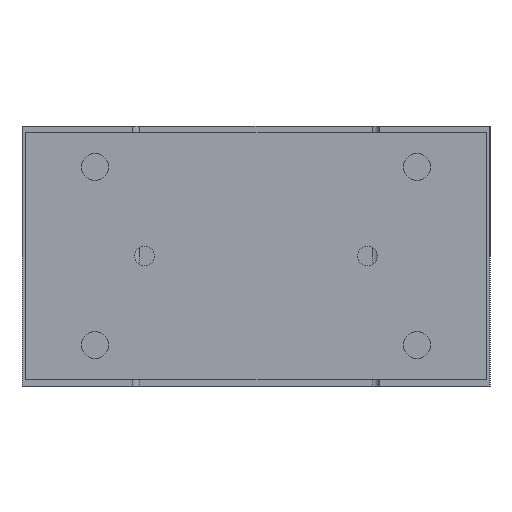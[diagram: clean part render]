
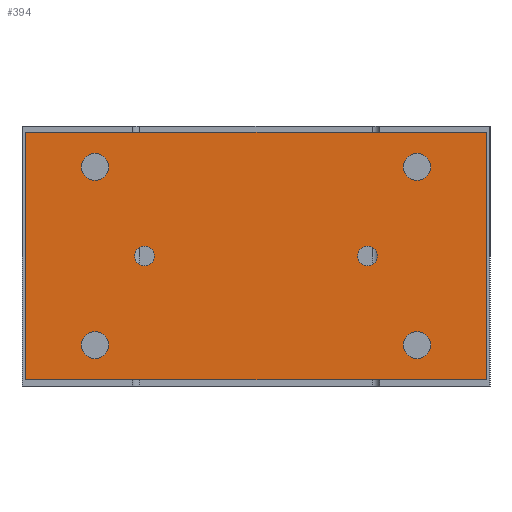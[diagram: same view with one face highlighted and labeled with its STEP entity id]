
A CAD part, left-side view. The second image highlights one B-rep face of the part: STEP entity #394.
In plain terms, the highlighted planar face has unit normal (-1, 0, 0).
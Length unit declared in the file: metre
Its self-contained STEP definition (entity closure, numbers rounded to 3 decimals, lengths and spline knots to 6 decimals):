
#394 = ADVANCED_FACE( '', ( #979, #980, #981, #982, #983, #984, #985 ), #986, .T. );
#979 = FACE_BOUND( '', #1783, .T. );
#980 = FACE_BOUND( '', #1784, .T. );
#981 = FACE_BOUND( '', #1785, .T. );
#982 = FACE_BOUND( '', #1786, .T. );
#983 = FACE_BOUND( '', #1787, .T. );
#984 = FACE_BOUND( '', #1788, .T. );
#985 = FACE_OUTER_BOUND( '', #1789, .T. );
#986 = PLANE( '', #1790 );
#1783 = EDGE_LOOP( '', ( #2844 ) );
#1784 = EDGE_LOOP( '', ( #2845 ) );
#1785 = EDGE_LOOP( '', ( #2846 ) );
#1786 = EDGE_LOOP( '', ( #2847 ) );
#1787 = EDGE_LOOP( '', ( #2848 ) );
#1788 = EDGE_LOOP( '', ( #2849 ) );
#1789 = EDGE_LOOP( '', ( #2850, #2851, #2852, #2853 ) );
#1790 = AXIS2_PLACEMENT_3D( '', #2854, #2855, #2856 );
#2844 = ORIENTED_EDGE( '', *, *, #3979, .F. );
#2845 = ORIENTED_EDGE( '', *, *, #4094, .F. );
#2846 = ORIENTED_EDGE( '', *, *, #3865, .F. );
#2847 = ORIENTED_EDGE( '', *, *, #4095, .F. );
#2848 = ORIENTED_EDGE( '', *, *, #4096, .F. );
#2849 = ORIENTED_EDGE( '', *, *, #4097, .T. );
#2850 = ORIENTED_EDGE( '', *, *, #4040, .T. );
#2851 = ORIENTED_EDGE( '', *, *, #4098, .T. );
#2852 = ORIENTED_EDGE( '', *, *, #3886, .T. );
#2853 = ORIENTED_EDGE( '', *, *, #3994, .T. );
#2854 = CARTESIAN_POINT( '', ( -0.135, 0.093, -0.1025 ) );
#2855 = DIRECTION( '', ( -1., 0., 0. ) );
#2856 = DIRECTION( '', ( 0., 0., -1. ) );
#3865 = EDGE_CURVE( '', #4464, #4464, #4465, .T. );
#3886 = EDGE_CURVE( '', #4502, #4500, #4503, .T. );
#3979 = EDGE_CURVE( '', #4661, #4661, #4662, .T. );
#3994 = EDGE_CURVE( '', #4500, #4684, #4686, .T. );
#4040 = EDGE_CURVE( '', #4684, #4755, #4757, .T. );
#4094 = EDGE_CURVE( '', #4840, #4840, #4841, .T. );
#4095 = EDGE_CURVE( '', #4842, #4842, #4843, .T. );
#4096 = EDGE_CURVE( '', #4844, #4844, #4845, .T. );
#4097 = EDGE_CURVE( '', #4846, #4846, #4847, .T. );
#4098 = EDGE_CURVE( '', #4755, #4502, #4848, .T. );
#4464 = VERTEX_POINT( '', #5309 );
#4465 = CIRCLE( '', #5310, 0.0055 );
#4500 = VERTEX_POINT( '', #5354 );
#4502 = VERTEX_POINT( '', #5357 );
#4503 = LINE( '', #5358, #5359 );
#4661 = VERTEX_POINT( '', #5594 );
#4662 = CIRCLE( '', #5595, 0.0055 );
#4684 = VERTEX_POINT( '', #5621 );
#4686 = LINE( '', #5624, #5625 );
#4755 = VERTEX_POINT( '', #5774 );
#4757 = LINE( '', #5777, #5778 );
#4840 = VERTEX_POINT( '', #5922 );
#4841 = CIRCLE( '', #5923, 0.0055 );
#4842 = VERTEX_POINT( '', #5924 );
#4843 = CIRCLE( '', #5925, 0.0055 );
#4844 = VERTEX_POINT( '', #5926 );
#4845 = CIRCLE( '', #5927, 0.004 );
#4846 = VERTEX_POINT( '', #5928 );
#4847 = CIRCLE( '', #5929, 0.004 );
#4848 = LINE( '', #5930, #5931 );
#5309 = CARTESIAN_POINT( '', ( -0.135, 0.0595, -0.0885 ) );
#5310 = AXIS2_PLACEMENT_3D( '', #6580, #6581, #6582 );
#5354 = CARTESIAN_POINT( '', ( -0.135, -0.093, -0.0025 ) );
#5357 = CARTESIAN_POINT( '', ( -0.135, -0.093, -0.1025 ) );
#5358 = CARTESIAN_POINT( '', ( -0.135, -0.093, -0.1025 ) );
#5359 = VECTOR( '', #6608, 1. );
#5594 = CARTESIAN_POINT( '', ( -0.135, 0.0595, -0.0165 ) );
#5595 = AXIS2_PLACEMENT_3D( '', #6734, #6735, #6736 );
#5621 = CARTESIAN_POINT( '', ( -0.135, 0.093, -0.0025 ) );
#5624 = CARTESIAN_POINT( '', ( -0.135, -0.093, -0.0025 ) );
#5625 = VECTOR( '', #6754, 1. );
#5774 = CARTESIAN_POINT( '', ( -0.135, 0.093, -0.1025 ) );
#5777 = CARTESIAN_POINT( '', ( -0.135, 0.093, -0.0025 ) );
#5778 = VECTOR( '', #6809, 1. );
#5922 = CARTESIAN_POINT( '', ( -0.135, -0.0705, -0.0165 ) );
#5923 = AXIS2_PLACEMENT_3D( '', #6859, #6860, #6861 );
#5924 = CARTESIAN_POINT( '', ( -0.135, -0.0705, -0.0885 ) );
#5925 = AXIS2_PLACEMENT_3D( '', #6862, #6863, #6864 );
#5926 = CARTESIAN_POINT( '', ( -0.135, 0.041, -0.0525 ) );
#5927 = AXIS2_PLACEMENT_3D( '', #6865, #6866, #6867 );
#5928 = CARTESIAN_POINT( '', ( -0.135, -0.041, -0.0525 ) );
#5929 = AXIS2_PLACEMENT_3D( '', #6868, #6869, #6870 );
#5930 = CARTESIAN_POINT( '', ( -0.135, 0.093, -0.1025 ) );
#5931 = VECTOR( '', #6871, 1. );
#6580 = CARTESIAN_POINT( '', ( -0.135, 0.065, -0.0885 ) );
#6581 = DIRECTION( '', ( -1., 0., 0. ) );
#6582 = DIRECTION( '', ( 0., -1., 0. ) );
#6608 = DIRECTION( '', ( 0., 0., 1. ) );
#6734 = CARTESIAN_POINT( '', ( -0.135, 0.065, -0.0165 ) );
#6735 = DIRECTION( '', ( -1., 0., 0. ) );
#6736 = DIRECTION( '', ( 0., -1., 0. ) );
#6754 = DIRECTION( '', ( 0., 1., 0. ) );
#6809 = DIRECTION( '', ( 0., 0., -1. ) );
#6859 = CARTESIAN_POINT( '', ( -0.135, -0.065, -0.0165 ) );
#6860 = DIRECTION( '', ( -1., 0., 0. ) );
#6861 = DIRECTION( '', ( 0., -1., 0. ) );
#6862 = CARTESIAN_POINT( '', ( -0.135, -0.065, -0.0885 ) );
#6863 = DIRECTION( '', ( -1., 0., 0. ) );
#6864 = DIRECTION( '', ( 0., -1., 0. ) );
#6865 = CARTESIAN_POINT( '', ( -0.135, 0.045, -0.0525 ) );
#6866 = DIRECTION( '', ( -1., 0., 0. ) );
#6867 = DIRECTION( '', ( 0., -1., 0. ) );
#6868 = CARTESIAN_POINT( '', ( -0.135, -0.045, -0.0525 ) );
#6869 = DIRECTION( '', ( 1., 0., 0. ) );
#6870 = DIRECTION( '', ( 0., 1., 0. ) );
#6871 = DIRECTION( '', ( 0., -1., 0. ) );
